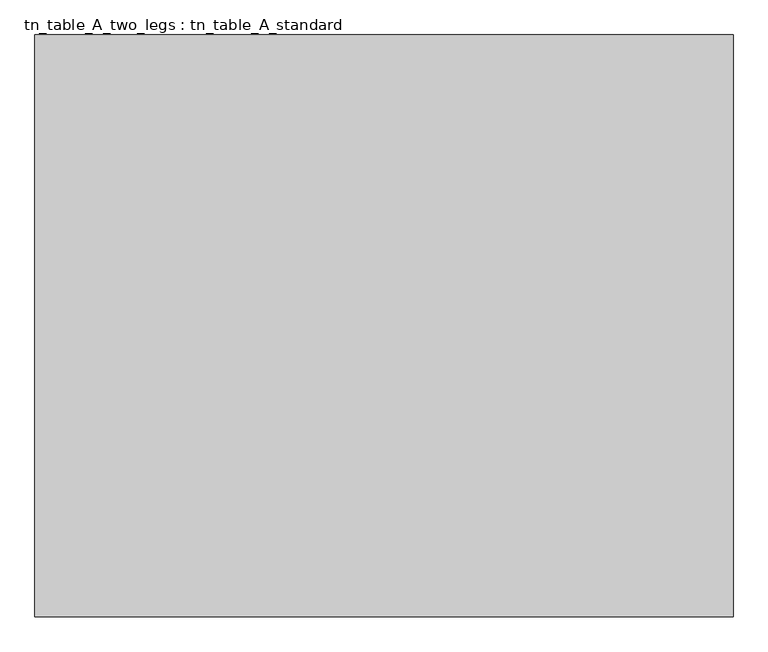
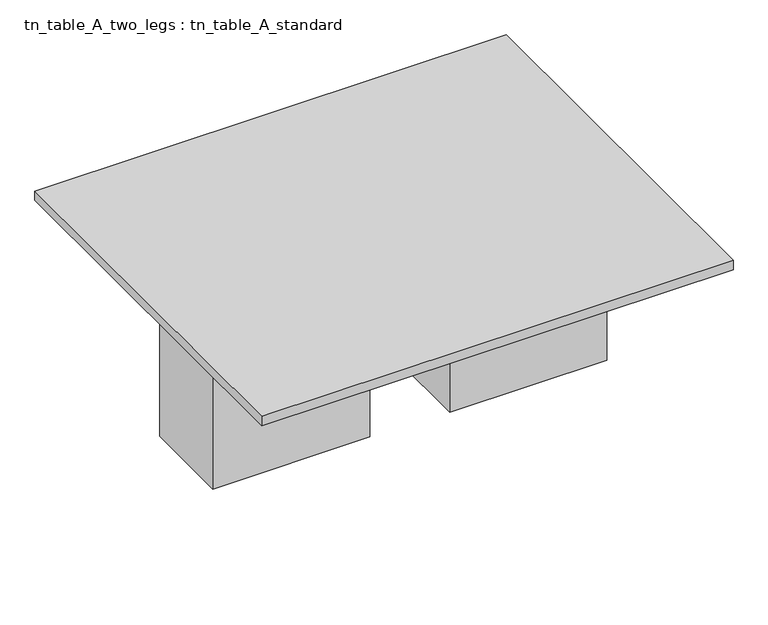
"""IFC4 building model written with IfcOpenShell, lengths in millimetres: furniture geometry, tn_table_A_two_legs : tn_table_A_standard."""

import ifcopenshell
import ifcopenshell.guid

model = None  # the IFC model being written
_history = None  # IfcOwnerHistory: only IFC2X3 demands one
_inside = {}  # id of a spatial element -> (the spatial element, [elements in it])
_under = {}  # id of a project, library or spatial element -> (it, [spatial elements below it])
_declared = {}  # id of a project -> (the project, [libraries it declares])
_typed = {}  # id of a type object -> (the type object, [elements of that type])
_made_of = {}  # id of a material, layer set ... -> (it, [elements and type objects made of it])


def new_model(schema):
    """Start an empty IFC model of exactly this schema.

    Asked for "IFC4X3", IfcOpenShell would pick the latest addendum, in which some entities
    have other attributes; the version numbers below select the first issue.
    IFC2X3 requires an IfcOwnerHistory on every rooted entity: one is made here for all.
    """
    global model, _history
    if schema == "IFC4X3":
        model = ifcopenshell.file(schema_version=(4, 3, 0, 0))
    else:
        model = ifcopenshell.file(schema=schema)
    _inside.clear()
    _under.clear()
    _declared.clear()
    _typed.clear()
    _made_of.clear()
    _history = None
    if model.schema == "IFC2X3":
        org = make("IfcOrganization", Name="unknown")
        user = make(
            "IfcPersonAndOrganization",
            ThePerson=make("IfcPerson", FamilyName="unknown"),
            TheOrganization=org,
        )
        app = make(
            "IfcApplication",
            ApplicationDeveloper=org,
            Version="unknown",
            ApplicationFullName="unknown",
            ApplicationIdentifier="unknown",
        )
        _history = make(
            "IfcOwnerHistory",
            OwningUser=user,
            OwningApplication=app,
            ChangeAction="ADDED",
            CreationDate=0,
        )
    return model


def make(cls, **values):
    """One entity of the class cls with the attributes given. An attribute that is None is left unset."""
    return model.create_entity(
        cls, **{name: value for name, value in values.items() if value is not None}
    )


def rooted(cls, **values):
    """An entity with a GlobalId (a new one), such as an element, a storey or a relation."""
    return make(cls, GlobalId=ifcopenshell.guid.new(), OwnerHistory=_history, **values)


def si_unit(unit_type, name, prefix=None):
    """IfcSIUnit, for example si_unit("LENGTHUNIT", "METRE", prefix="MILLI")."""
    return make("IfcSIUnit", UnitType=unit_type, Prefix=prefix, Name=name)


def assignment(units):
    """IfcUnitAssignment: the units of a project."""
    return None if units is None else make("IfcUnitAssignment", Units=units)


def point(xyz):
    """IfcCartesianPoint."""
    return None if xyz is None else make("IfcCartesianPoint", Coordinates=xyz)


def direction(xyz):
    """IfcDirection."""
    return None if xyz is None else make("IfcDirection", DirectionRatios=xyz)


def frame(location, z_axis=None, x_axis=None):
    """IfcAxis2Placement3D, a coordinate frame: its origin and axes. An axis left out is left unset."""
    return make(
        "IfcAxis2Placement3D",
        Location=point(location),
        Axis=direction(z_axis),
        RefDirection=direction(x_axis),
    )


def origin():
    """The frame at (0, 0, 0) with its axes left unset."""
    return frame((0.0, 0.0, 0.0))


def origin_with_axes():
    """The frame at (0, 0, 0) with the z axis (0, 0, 1) and the x axis (1, 0, 0) written out."""
    return frame((0.0, 0.0, 0.0), z_axis=(0.0, 0.0, 1.0), x_axis=(1.0, 0.0, 0.0))


def place(relative_to, where):
    """IfcLocalPlacement: puts the frame where relative to a parent placement (None: the world)."""
    return make(
        "IfcLocalPlacement", PlacementRelTo=relative_to, RelativePlacement=where
    )


def context(
    kind, dimensions, precision=None, world=None, true_north=None, identifier=None
):
    """IfcGeometricRepresentationContext, for example the 3D "Model" context."""
    return make(
        "IfcGeometricRepresentationContext",
        ContextIdentifier=identifier,
        ContextType=kind,
        CoordinateSpaceDimension=dimensions,
        Precision=precision,
        WorldCoordinateSystem=world,
        TrueNorth=true_north,
    )


def project(units=None, contexts=None):
    """IfcProject with its units and contexts."""
    return rooted(
        "IfcProject",
        Name="project",
        RepresentationContexts=contexts,
        UnitsInContext=assignment(units),
    )


def spatial(cls, under=None, at=None, **own):
    """A site, building, storey or space (cls), placed at a placement, below another one or the project."""
    s = rooted(cls, ObjectPlacement=at, **own)
    if under is not None:
        _under.setdefault(under.id(), (under, []))[1].append(s)
    return s


def polyline(points):
    """IfcPolyline through the points."""
    return make("IfcPolyline", Points=[point(p) for p in points])


def outline(outer, holes=None, kind="AREA"):
    """IfcArbitraryClosedProfileDef: a profile drawn as a closed curve; with holes, ...WithVoids."""
    if holes is None:
        return make("IfcArbitraryClosedProfileDef", ProfileType=kind, OuterCurve=outer)
    return make(
        "IfcArbitraryProfileDefWithVoids",
        ProfileType=kind,
        OuterCurve=outer,
        InnerCurves=holes,
    )


def extrude(swept, where, along, depth):
    """IfcExtrudedAreaSolid: the profile swept, set in the frame where, extruded along a direction by depth."""
    return make(
        "IfcExtrudedAreaSolid",
        SweptArea=swept,
        Position=where,
        ExtrudedDirection=direction(along),
        Depth=depth,
    )


def shape(context_of_items, identifier, shape_type, items):
    """IfcShapeRepresentation: the items that make up one representation, for example the "Body"."""
    return make(
        "IfcShapeRepresentation",
        ContextOfItems=context_of_items,
        RepresentationIdentifier=identifier,
        RepresentationType=shape_type,
        Items=items,
    )


def source(mapping_origin, context_of_items, identifier, shape_type, items):
    """IfcRepresentationMap: a shape defined once, which mapped items show again and again."""
    return make(
        "IfcRepresentationMap",
        MappingOrigin=mapping_origin,
        MappedRepresentation=shape(context_of_items, identifier, shape_type, items),
    )


def transform(
    local_origin,
    x_axis=None,
    y_axis=None,
    z_axis=None,
    scale=None,
    scale2=None,
    scale3=None,
    uniform=True,
):
    """IfcCartesianTransformationOperator3D, or its non-uniform kind. x_axis, y_axis, z_axis: its Axis1, 2, 3."""
    if uniform:
        return make(
            "IfcCartesianTransformationOperator3D",
            Axis1=direction(x_axis),
            Axis2=direction(y_axis),
            LocalOrigin=point(local_origin),
            Scale=scale,
            Axis3=direction(z_axis),
        )
    return make(
        "IfcCartesianTransformationOperator3DnonUniform",
        Axis1=direction(x_axis),
        Axis2=direction(y_axis),
        LocalOrigin=point(local_origin),
        Scale=scale,
        Axis3=direction(z_axis),
        Scale2=scale2,
        Scale3=scale3,
    )


def mapped(mapping_source, mapping_target):
    """IfcMappedItem: shows the shape of a source again, moved by a transform."""
    return make(
        "IfcMappedItem", MappingSource=mapping_source, MappingTarget=mapping_target
    )


def made_of(thing, what):
    """Note that an element or type object is made of a material, layer set ...; save() writes the relation."""
    if what is not None:
        _made_of.setdefault(what.id(), (what, []))[1].append(thing)
    return thing


def element(
    cls,
    number,
    at=None,
    inside=None,
    cuts=None,
    type_object=None,
    material=None,
    context=None,
    identifier="Body",
    shape_type=None,
    held_by="IfcProductDefinitionShape",
    body=None,
    shapes=None,
    **own,
):
    """One element of the class cls, such as IfcWall. Its Tag is "e" and its number.

    at: its placement. inside: the storey or other place that contains it. cuts: it is an
    opening in that element (IfcRelVoidsElement). A single representation is given by context,
    identifier, shape_type and body (its items); several are given by shapes. held_by: the class
    of the entity that holds the representations. save() writes the other relations.
    """
    e = rooted(cls, Tag="e%d" % number, ObjectPlacement=at, **own)
    if body is not None:
        shapes = [shape(context, identifier, shape_type, body)]
    if shapes is not None:
        e.Representation = make(held_by, Representations=shapes)
    if inside is not None:
        _inside.setdefault(inside.id(), (inside, []))[1].append(e)
    if cuts is not None:
        rooted(
            "IfcRelVoidsElement", RelatingBuildingElement=cuts, RelatedOpeningElement=e
        )
    if type_object is not None:
        _typed.setdefault(type_object.id(), (type_object, []))[1].append(e)
    return made_of(e, material)


def aggregate(whole, parts):
    """IfcRelAggregates: a whole, such as a stair, and the parts it consists of."""
    return rooted("IfcRelAggregates", RelatingObject=whole, RelatedObjects=parts)


def save(model, path):
    """Write the relations noted so far, then the file.

    IfcRelAggregates (storeys below a building ...), IfcRelContainedInSpatialStructure (elements
    in a storey), IfcRelDefinesByType, IfcRelAssociatesMaterial and IfcRelDeclares: one each for
    every whole, place, type object, material and project.
    """
    for whole, parts in _under.values():
        aggregate(whole, parts)
    for where, things in _inside.values():
        rooted(
            "IfcRelContainedInSpatialStructure",
            RelatedElements=things,
            RelatingStructure=where,
        )
    for kind, things in _typed.values():
        rooted("IfcRelDefinesByType", RelatedObjects=things, RelatingType=kind)
    for what, things in _made_of.values():
        rooted("IfcRelAssociatesMaterial", RelatedObjects=things, RelatingMaterial=what)
    for by, libraries in _declared.values():
        rooted("IfcRelDeclares", RelatingContext=by, RelatedDefinitions=libraries)
    model.write(path)


def tn_table_a_two_legs_tn_table_a_standard_d0ec0840(model_context):
    return source(origin(), model_context, "Body", "SweptSolid", [
        extrude(outline(polyline([(228.6, 177.8), (228.6, -177.8), (-381.0, -177.8), (-381.0, 177.8), (228.6, 177.8)])), origin_with_axes(), (0.0, 0.0, 1.0), 673.1),
        extrude(outline(polyline([(-685.8, 186.6425858), (-685.8, -168.9574142), (-1295.4, -168.9574142), (-1295.4, 186.6425858), (-685.8, 186.6425858)])), origin_with_axes(), (0.0, 0.0, 1.0), 673.1),
        extrude(outline(polyline([(381.0, 762.0), (381.0, -762.0), (-1447.8, -762.0), (-1447.8, 762.0), (381.0, 762.0)])), frame((0.0, 0.0, 673.1), z_axis=(0.0, 0.0, 1.0), x_axis=(1.0, 0.0, 0.0)), (0.0, 0.0, 1.0), 38.1),
    ])


if __name__ == "__main__":
    model = new_model("IFC4")
    model_context = context("Model", 3, world=origin())
    ifc_project = project(units=[si_unit("LENGTHUNIT", "METRE", prefix="MILLI")], contexts=[model_context])
    site = spatial("IfcSite", under=ifc_project)
    building = spatial("IfcBuilding", under=site)
    placement = place(None, origin())
    tn_table_a_two_legs_tn_table_a_standard_shape = tn_table_a_two_legs_tn_table_a_standard_d0ec0840(model_context)
    element("IfcFurniture", 1, ObjectType="tn_table_A_two_legs : tn_table_A_standard", at=placement, inside=building, context=model_context, shape_type="MappedRepresentation", body=[
        mapped(tn_table_a_two_legs_tn_table_a_standard_shape, transform((0.0, 0.0, 0.0), x_axis=(1.0, 0.0, 0.0), y_axis=(0.0, 1.0, 0.0), z_axis=(0.0, 0.0, 1.0))),
    ])
    save(model, "model.ifc")
